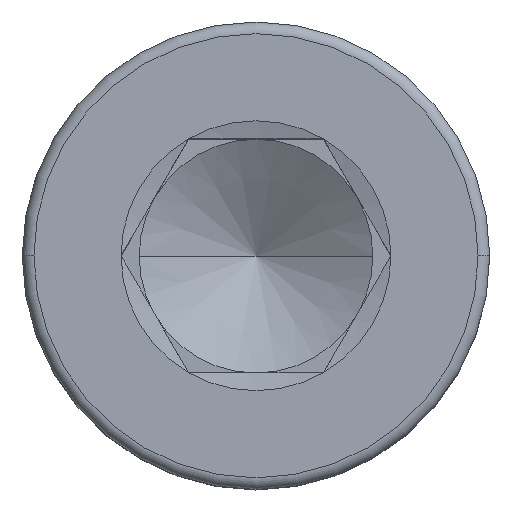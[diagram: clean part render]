
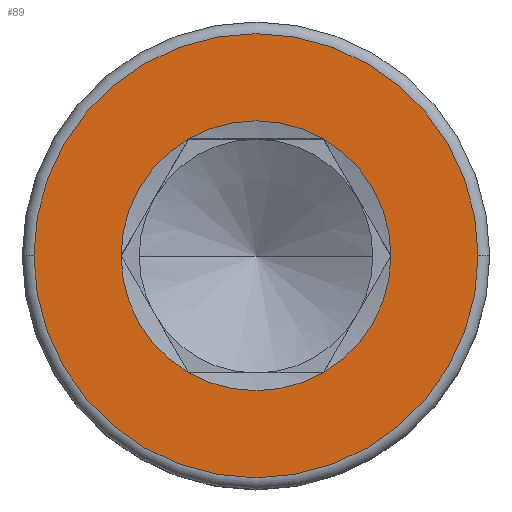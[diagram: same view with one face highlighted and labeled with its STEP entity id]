
A CAD part, top view. The second image highlights one B-rep face of the part: STEP entity #89.
In plain terms, the highlighted planar face has unit normal (0, 0, 1).
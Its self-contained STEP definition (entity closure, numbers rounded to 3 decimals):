
#3 = ORIENTED_EDGE ( 'NONE', *, *, #1131, .T. ) ;
#13 = CIRCLE ( 'NONE', #1094, 2.309 ) ;
#35 = AXIS2_PLACEMENT_3D ( 'NONE', #1727, #557, #267 ) ;
#68 = DIRECTION ( 'NONE',  ( 1., 0., 0. ) ) ;
#84 = EDGE_CURVE ( 'NONE', #207, #1617, #1621, .T. ) ;
#89 = ADVANCED_FACE ( 'NONE', ( #614, #185 ), #1778, .T. ) ;
#96 = DIRECTION ( 'NONE',  ( 0., 0., 1. ) ) ;
#105 = CARTESIAN_POINT ( 'NONE',  ( -2.309, 0., 5. ) ) ;
#152 = DIRECTION ( 'NONE',  ( 1., 0., 0. ) ) ;
#185 = FACE_BOUND ( 'NONE', #1519, .T. ) ;
#191 = ORIENTED_EDGE ( 'NONE', *, *, #823, .F. ) ;
#207 = VERTEX_POINT ( 'NONE', #1748 ) ;
#212 = DIRECTION ( 'NONE',  ( 0., 0., 1. ) ) ;
#245 = CARTESIAN_POINT ( 'NONE',  ( 0., 0., 5. ) ) ;
#262 = AXIS2_PLACEMENT_3D ( 'NONE', #1763, #735, #1627 ) ;
#267 = DIRECTION ( 'NONE',  ( 1., 0., 0. ) ) ;
#269 = ORIENTED_EDGE ( 'NONE', *, *, #1352, .F. ) ;
#312 = CIRCLE ( 'NONE', #1391, 2.309 ) ;
#315 = AXIS2_PLACEMENT_3D ( 'NONE', #1795, #484, #1243 ) ;
#338 = ORIENTED_EDGE ( 'NONE', *, *, #1687, .F. ) ;
#478 = CARTESIAN_POINT ( 'NONE',  ( 2.309, 0., 5. ) ) ;
#484 = DIRECTION ( 'NONE',  ( 0., 0., 1. ) ) ;
#488 = CARTESIAN_POINT ( 'NONE',  ( 0., 0., 5. ) ) ;
#492 = VERTEX_POINT ( 'NONE', #1464 ) ;
#553 = EDGE_CURVE ( 'NONE', #1454, #207, #312, .T. ) ;
#555 = VERTEX_POINT ( 'NONE', #615 ) ;
#557 = DIRECTION ( 'NONE',  ( 0., 0., 1. ) ) ;
#564 = AXIS2_PLACEMENT_3D ( 'NONE', #1098, #1522, #949 ) ;
#586 = EDGE_LOOP ( 'NONE', ( #1480, #3 ) ) ;
#614 = FACE_OUTER_BOUND ( 'NONE', #586, .T. ) ;
#615 = CARTESIAN_POINT ( 'NONE',  ( 1.155, -2., 5. ) ) ;
#620 = VERTEX_POINT ( 'NONE', #478 ) ;
#647 = EDGE_CURVE ( 'NONE', #1617, #1056, #1023, .T. ) ;
#709 = VERTEX_POINT ( 'NONE', #1287 ) ;
#735 = DIRECTION ( 'NONE',  ( 0., 0., 1. ) ) ;
#766 = DIRECTION ( 'NONE',  ( 0., 0., 1. ) ) ;
#823 = EDGE_CURVE ( 'NONE', #555, #620, #1147, .T. ) ;
#866 = CIRCLE ( 'NONE', #997, 3.8 ) ;
#870 = CIRCLE ( 'NONE', #262, 2.309 ) ;
#916 = ORIENTED_EDGE ( 'NONE', *, *, #84, .F. ) ;
#919 = CARTESIAN_POINT ( 'NONE',  ( 1.155, 2., 5. ) ) ;
#949 = DIRECTION ( 'NONE',  ( 1., 0., 0. ) ) ;
#997 = AXIS2_PLACEMENT_3D ( 'NONE', #1805, #1670, #68 ) ;
#1023 = CIRCLE ( 'NONE', #35, 2.309 ) ;
#1050 = DIRECTION ( 'NONE',  ( 1., 0., 0. ) ) ;
#1056 = VERTEX_POINT ( 'NONE', #1403 ) ;
#1064 = DIRECTION ( 'NONE',  ( 1., 0., 0. ) ) ;
#1070 = DIRECTION ( 'NONE',  ( 0., 0., 1. ) ) ;
#1094 = AXIS2_PLACEMENT_3D ( 'NONE', #245, #96, #152 ) ;
#1098 = CARTESIAN_POINT ( 'NONE',  ( 0., 0., 5. ) ) ;
#1131 = EDGE_CURVE ( 'NONE', #492, #709, #866, .T. ) ;
#1147 = CIRCLE ( 'NONE', #315, 2.309 ) ;
#1243 = DIRECTION ( 'NONE',  ( 1., 0., 0. ) ) ;
#1287 = CARTESIAN_POINT ( 'NONE',  ( 3.8, 0., 5. ) ) ;
#1352 = EDGE_CURVE ( 'NONE', #620, #1454, #870, .T. ) ;
#1372 = ORIENTED_EDGE ( 'NONE', *, *, #553, .F. ) ;
#1382 = CARTESIAN_POINT ( 'NONE',  ( 0., 0., 5. ) ) ;
#1391 = AXIS2_PLACEMENT_3D ( 'NONE', #488, #1070, #1064 ) ;
#1403 = CARTESIAN_POINT ( 'NONE',  ( -1.155, -2., 5. ) ) ;
#1454 = VERTEX_POINT ( 'NONE', #919 ) ;
#1464 = CARTESIAN_POINT ( 'NONE',  ( -3.8, 0., 5. ) ) ;
#1480 = ORIENTED_EDGE ( 'NONE', *, *, #1492, .T. ) ;
#1492 = EDGE_CURVE ( 'NONE', #709, #492, #1545, .T. ) ;
#1508 = AXIS2_PLACEMENT_3D ( 'NONE', #1382, #766, #1509 ) ;
#1509 = DIRECTION ( 'NONE',  ( 1., 0., 0. ) ) ;
#1519 = EDGE_LOOP ( 'NONE', ( #269, #191, #338, #1884, #916, #1372 ) ) ;
#1522 = DIRECTION ( 'NONE',  ( 0., 0., 1. ) ) ;
#1531 = CARTESIAN_POINT ( 'NONE',  ( 0., 0., 5. ) ) ;
#1545 = CIRCLE ( 'NONE', #1508, 3.8 ) ;
#1617 = VERTEX_POINT ( 'NONE', #105 ) ;
#1621 = CIRCLE ( 'NONE', #564, 2.309 ) ;
#1627 = DIRECTION ( 'NONE',  ( 1., 0., 0. ) ) ;
#1658 = AXIS2_PLACEMENT_3D ( 'NONE', #1531, #212, #1050 ) ;
#1670 = DIRECTION ( 'NONE',  ( 0., 0., 1. ) ) ;
#1687 = EDGE_CURVE ( 'NONE', #1056, #555, #13, .T. ) ;
#1727 = CARTESIAN_POINT ( 'NONE',  ( 0., 0., 5. ) ) ;
#1748 = CARTESIAN_POINT ( 'NONE',  ( -1.155, 2., 5. ) ) ;
#1763 = CARTESIAN_POINT ( 'NONE',  ( 0., 0., 5. ) ) ;
#1778 = PLANE ( 'NONE',  #1658 ) ;
#1795 = CARTESIAN_POINT ( 'NONE',  ( 0., 0., 5. ) ) ;
#1805 = CARTESIAN_POINT ( 'NONE',  ( 0., 0., 5. ) ) ;
#1884 = ORIENTED_EDGE ( 'NONE', *, *, #647, .F. ) ;
